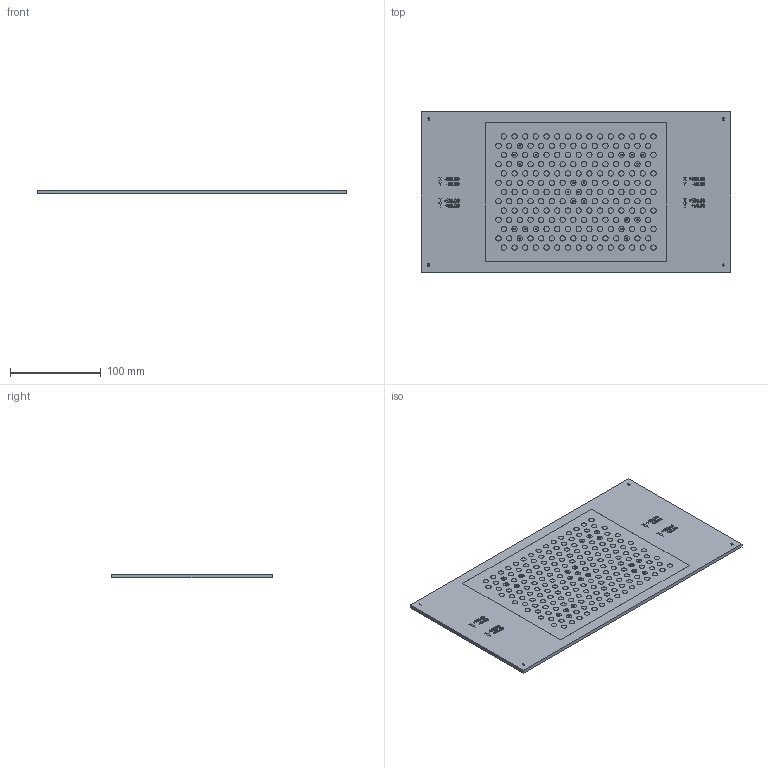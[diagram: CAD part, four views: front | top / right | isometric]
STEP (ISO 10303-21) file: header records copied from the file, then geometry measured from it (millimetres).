
FILE_DESCRIPTION(/* description */ (''),/* implementation_level */ '2;1');
FILE_NAME(/* name */ 'C:\#Vault-WorkDir\Konstruktions-Dokumente\Projekte\VISOR\Katalogzeichnungen\153-13575_ZCP 200-13x15-X01.stp',/* time_stamp */ '2019-03-26T10:53:06+01:00',/* author */ ('SensoPart'),/* organization */ ('SensoPart'),/* preprocessor_version */ 'ST-DEVELOPER v17',/* originating_system */ 'Autodesk Inventor 2018',/* authorisation */ '');
FILE_SCHEMA (('AUTOMOTIVE_DESIGN { 1 0 10303 214 3 1 1 }'));
Length unit declared in the file: millimetre
Products named in the file (1): GH-ENG-0028054
Bounding box: 340 x 176 x 4.05 mm (x, y, z)
Volume: 240624.1 mm3; surface area: 124068.9 mm2
Topology: 1 solids, 1 shells, 1236 faces, 2837 edges, 1910 vertices
Faces by surface type: plane 615, bspline 401, cylinder 220
Full cylindrical faces by diameter (mm): 1.955 x22, 5.874 x192
Entity records: 37744 total; most frequent: CARTESIAN_POINT 10937, ORIENTED_EDGE 5610, DIRECTION 4163, EDGE_CURVE 2805, VERTEX_POINT 1870, LINE 1563, VECTOR 1563, EDGE_LOOP 1535
